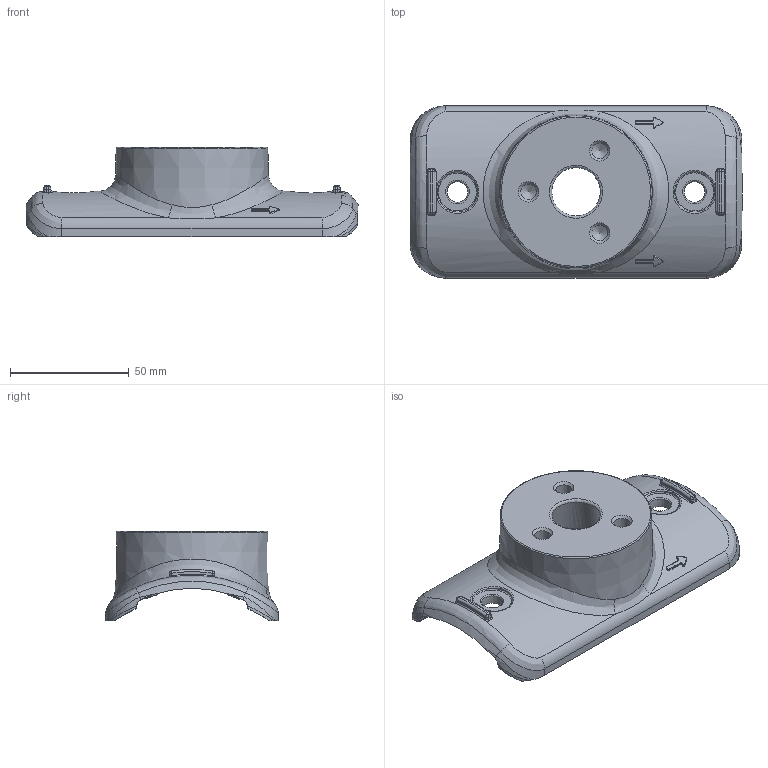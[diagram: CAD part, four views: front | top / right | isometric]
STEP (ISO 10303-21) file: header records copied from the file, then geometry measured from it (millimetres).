
FILE_DESCRIPTION(/* description */ ('Unknown'),/* implementation_level */ '2;1');
FILE_NAME(/* name */ '19030652-01 POLE CLAMP',/* time_stamp */ '2023-07-31T09:36:16+02:00',/* author */ ('Unknown'),/* organization */ ('Unknown'),/* preprocessor_version */ 'ST-DEVELOPER v18.104',/* originating_system */ 'Solid Edge',/* authorisation */ 'Unknown');
FILE_SCHEMA (('AUTOMOTIVE_DESIGN {1 0 10303 214 3 1 1}'));
Length unit declared in the file: millimetre
Products named in the file (1): 19030652-01 POLE CLAMP
Bounding box: 140 x 72.78 x 37.6 mm (x, y, z)
Volume: 99766.6 mm3; surface area: 34717.3 mm2
Topology: 1 solids, 1 shells, 434 faces, 1028 edges, 608 vertices
Faces by surface type: bspline 121, cylinder 116, torus 83, plane 73, cone 29, sphere 12
Full cylindrical faces by diameter (mm): 6.647 x6
Entity records: 19226 total; most frequent: CARTESIAN_POINT 10910, ORIENTED_EDGE 1944, DIRECTION 1272, EDGE_CURVE 972, VERTEX_POINT 595, B_SPLINE_CURVE_WITH_KNOTS 557, AXIS2_PLACEMENT_3D 543, FACE_BOUND 495
